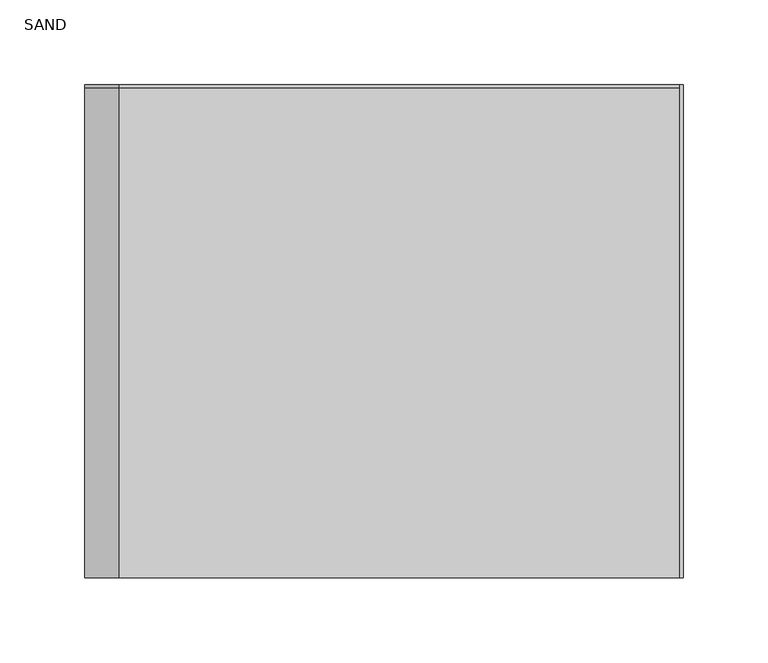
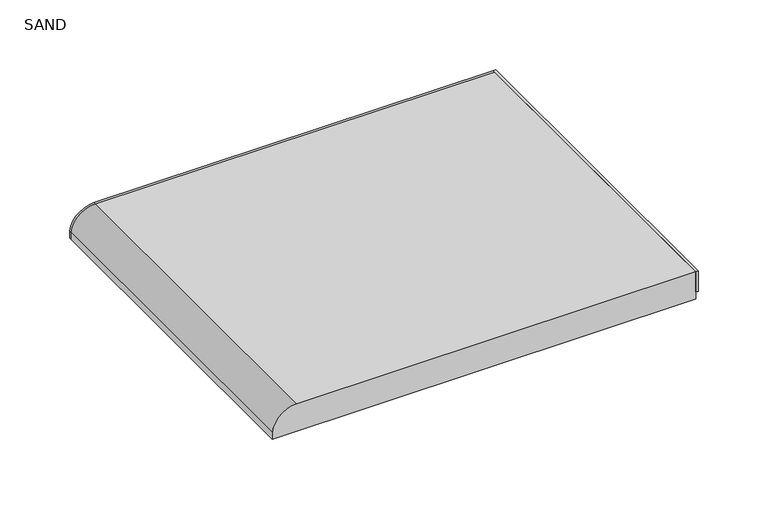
"""IFC4 building model written with IfcOpenShell, lengths in millimetres: proxy geometry, BORDA MONOLITH STEP SAND 35X60 EXT BOLD : SAND."""

import ifcopenshell
import ifcopenshell.guid

model = None  # the IFC model being written
_history = None  # IfcOwnerHistory: only IFC2X3 demands one
_inside = {}  # id of a spatial element -> (the spatial element, [elements in it])
_under = {}  # id of a project, library or spatial element -> (it, [spatial elements below it])
_declared = {}  # id of a project -> (the project, [libraries it declares])
_typed = {}  # id of a type object -> (the type object, [elements of that type])
_made_of = {}  # id of a material, layer set ... -> (it, [elements and type objects made of it])


def new_model(schema):
    """Start an empty IFC model of exactly this schema.

    Asked for "IFC4X3", IfcOpenShell would pick the latest addendum, in which some entities
    have other attributes; the version numbers below select the first issue.
    IFC2X3 requires an IfcOwnerHistory on every rooted entity: one is made here for all.
    """
    global model, _history
    if schema == "IFC4X3":
        model = ifcopenshell.file(schema_version=(4, 3, 0, 0))
    else:
        model = ifcopenshell.file(schema=schema)
    _inside.clear()
    _under.clear()
    _declared.clear()
    _typed.clear()
    _made_of.clear()
    _history = None
    if model.schema == "IFC2X3":
        org = make("IfcOrganization", Name="unknown")
        user = make(
            "IfcPersonAndOrganization",
            ThePerson=make("IfcPerson", FamilyName="unknown"),
            TheOrganization=org,
        )
        app = make(
            "IfcApplication",
            ApplicationDeveloper=org,
            Version="unknown",
            ApplicationFullName="unknown",
            ApplicationIdentifier="unknown",
        )
        _history = make(
            "IfcOwnerHistory",
            OwningUser=user,
            OwningApplication=app,
            ChangeAction="ADDED",
            CreationDate=0,
        )
    return model


def make(cls, **values):
    """One entity of the class cls with the attributes given. An attribute that is None is left unset."""
    return model.create_entity(
        cls, **{name: value for name, value in values.items() if value is not None}
    )


def rooted(cls, **values):
    """An entity with a GlobalId (a new one), such as an element, a storey or a relation."""
    return make(cls, GlobalId=ifcopenshell.guid.new(), OwnerHistory=_history, **values)


def si_unit(unit_type, name, prefix=None):
    """IfcSIUnit, for example si_unit("LENGTHUNIT", "METRE", prefix="MILLI")."""
    return make("IfcSIUnit", UnitType=unit_type, Prefix=prefix, Name=name)


def assignment(units):
    """IfcUnitAssignment: the units of a project."""
    return None if units is None else make("IfcUnitAssignment", Units=units)


def point(xyz):
    """IfcCartesianPoint."""
    return None if xyz is None else make("IfcCartesianPoint", Coordinates=xyz)


def direction(xyz):
    """IfcDirection."""
    return None if xyz is None else make("IfcDirection", DirectionRatios=xyz)


def frame(location, z_axis=None, x_axis=None):
    """IfcAxis2Placement3D, a coordinate frame: its origin and axes. An axis left out is left unset."""
    return make(
        "IfcAxis2Placement3D",
        Location=point(location),
        Axis=direction(z_axis),
        RefDirection=direction(x_axis),
    )


def frame_2d(location, x_axis=None):
    """IfcAxis2Placement2D, a coordinate frame in the plane: its origin and x axis."""
    return make(
        "IfcAxis2Placement2D", Location=point(location), RefDirection=direction(x_axis)
    )


def origin():
    """The frame at (0, 0, 0) with its axes left unset."""
    return frame((0.0, 0.0, 0.0))


def place(relative_to, where):
    """IfcLocalPlacement: puts the frame where relative to a parent placement (None: the world)."""
    return make(
        "IfcLocalPlacement", PlacementRelTo=relative_to, RelativePlacement=where
    )


def context(
    kind, dimensions, precision=None, world=None, true_north=None, identifier=None
):
    """IfcGeometricRepresentationContext, for example the 3D "Model" context."""
    return make(
        "IfcGeometricRepresentationContext",
        ContextIdentifier=identifier,
        ContextType=kind,
        CoordinateSpaceDimension=dimensions,
        Precision=precision,
        WorldCoordinateSystem=world,
        TrueNorth=true_north,
    )


def project(units=None, contexts=None):
    """IfcProject with its units and contexts."""
    return rooted(
        "IfcProject",
        Name="project",
        RepresentationContexts=contexts,
        UnitsInContext=assignment(units),
    )


def spatial(cls, under=None, at=None, **own):
    """A site, building, storey or space (cls), placed at a placement, below another one or the project."""
    s = rooted(cls, ObjectPlacement=at, **own)
    if under is not None:
        _under.setdefault(under.id(), (under, []))[1].append(s)
    return s


def polyline(points):
    """IfcPolyline through the points."""
    return make("IfcPolyline", Points=[point(p) for p in points])


def circle_curve(where, radius):
    """IfcCircle in the frame where."""
    return make("IfcCircle", Position=where, Radius=radius)


def trimmed(basis, trim1, trim2, sense, master):
    """IfcTrimmedCurve: the piece of a basis curve between two trims."""
    return make(
        "IfcTrimmedCurve",
        BasisCurve=basis,
        Trim1=trim1,
        Trim2=trim2,
        SenseAgreement=sense,
        MasterRepresentation=master,
    )


def segment(curve, same_sense, transition):
    """IfcCompositeCurveSegment."""
    return make(
        "IfcCompositeCurveSegment",
        Transition=transition,
        SameSense=same_sense,
        ParentCurve=curve,
    )


def composite_curve(segments, self_intersect=None):
    """IfcCompositeCurve: segments joined end to end."""
    return make("IfcCompositeCurve", Segments=segments, SelfIntersect=self_intersect)


def outline(outer, holes=None, kind="AREA"):
    """IfcArbitraryClosedProfileDef: a profile drawn as a closed curve; with holes, ...WithVoids."""
    if holes is None:
        return make("IfcArbitraryClosedProfileDef", ProfileType=kind, OuterCurve=outer)
    return make(
        "IfcArbitraryProfileDefWithVoids",
        ProfileType=kind,
        OuterCurve=outer,
        InnerCurves=holes,
    )


def extrude(swept, where, along, depth):
    """IfcExtrudedAreaSolid: the profile swept, set in the frame where, extruded along a direction by depth."""
    return make(
        "IfcExtrudedAreaSolid",
        SweptArea=swept,
        Position=where,
        ExtrudedDirection=direction(along),
        Depth=depth,
    )


def shape(context_of_items, identifier, shape_type, items):
    """IfcShapeRepresentation: the items that make up one representation, for example the "Body"."""
    return make(
        "IfcShapeRepresentation",
        ContextOfItems=context_of_items,
        RepresentationIdentifier=identifier,
        RepresentationType=shape_type,
        Items=items,
    )


def source(mapping_origin, context_of_items, identifier, shape_type, items):
    """IfcRepresentationMap: a shape defined once, which mapped items show again and again."""
    return make(
        "IfcRepresentationMap",
        MappingOrigin=mapping_origin,
        MappedRepresentation=shape(context_of_items, identifier, shape_type, items),
    )


def transform(
    local_origin,
    x_axis=None,
    y_axis=None,
    z_axis=None,
    scale=None,
    scale2=None,
    scale3=None,
    uniform=True,
):
    """IfcCartesianTransformationOperator3D, or its non-uniform kind. x_axis, y_axis, z_axis: its Axis1, 2, 3."""
    if uniform:
        return make(
            "IfcCartesianTransformationOperator3D",
            Axis1=direction(x_axis),
            Axis2=direction(y_axis),
            LocalOrigin=point(local_origin),
            Scale=scale,
            Axis3=direction(z_axis),
        )
    return make(
        "IfcCartesianTransformationOperator3DnonUniform",
        Axis1=direction(x_axis),
        Axis2=direction(y_axis),
        LocalOrigin=point(local_origin),
        Scale=scale,
        Axis3=direction(z_axis),
        Scale2=scale2,
        Scale3=scale3,
    )


def mapped(mapping_source, mapping_target):
    """IfcMappedItem: shows the shape of a source again, moved by a transform."""
    return make(
        "IfcMappedItem", MappingSource=mapping_source, MappingTarget=mapping_target
    )


def made_of(thing, what):
    """Note that an element or type object is made of a material, layer set ...; save() writes the relation."""
    if what is not None:
        _made_of.setdefault(what.id(), (what, []))[1].append(thing)
    return thing


def element(
    cls,
    number,
    at=None,
    inside=None,
    cuts=None,
    type_object=None,
    material=None,
    context=None,
    identifier="Body",
    shape_type=None,
    held_by="IfcProductDefinitionShape",
    body=None,
    shapes=None,
    **own,
):
    """One element of the class cls, such as IfcWall. Its Tag is "e" and its number.

    at: its placement. inside: the storey or other place that contains it. cuts: it is an
    opening in that element (IfcRelVoidsElement). A single representation is given by context,
    identifier, shape_type and body (its items); several are given by shapes. held_by: the class
    of the entity that holds the representations. save() writes the other relations.
    """
    e = rooted(cls, Tag="e%d" % number, ObjectPlacement=at, **own)
    if body is not None:
        shapes = [shape(context, identifier, shape_type, body)]
    if shapes is not None:
        e.Representation = make(held_by, Representations=shapes)
    if inside is not None:
        _inside.setdefault(inside.id(), (inside, []))[1].append(e)
    if cuts is not None:
        rooted(
            "IfcRelVoidsElement", RelatingBuildingElement=cuts, RelatedOpeningElement=e
        )
    if type_object is not None:
        _typed.setdefault(type_object.id(), (type_object, []))[1].append(e)
    return made_of(e, material)


def aggregate(whole, parts):
    """IfcRelAggregates: a whole, such as a stair, and the parts it consists of."""
    return rooted("IfcRelAggregates", RelatingObject=whole, RelatedObjects=parts)


def save(model, path):
    """Write the relations noted so far, then the file.

    IfcRelAggregates (storeys below a building ...), IfcRelContainedInSpatialStructure (elements
    in a storey), IfcRelDefinesByType, IfcRelAssociatesMaterial and IfcRelDeclares: one each for
    every whole, place, type object, material and project.
    """
    for whole, parts in _under.values():
        aggregate(whole, parts)
    for where, things in _inside.values():
        rooted(
            "IfcRelContainedInSpatialStructure",
            RelatedElements=things,
            RelatingStructure=where,
        )
    for kind, things in _typed.values():
        rooted("IfcRelDefinesByType", RelatedObjects=things, RelatingType=kind)
    for what, things in _made_of.values():
        rooted("IfcRelAssociatesMaterial", RelatedObjects=things, RelatingMaterial=what)
    for by, libraries in _declared.values():
        rooted("IfcRelDeclares", RelatingContext=by, RelatedDefinitions=libraries)
    model.write(path)


def sand_00d39136(model_context):
    return source(origin(), model_context, "Body", "SweptSolid", [
        extrude(outline(polyline([(108.0017831, 302.0), (110.0017831, 302.0), (110.0017831, 12.0), (108.0017831, 12.0), (108.0017831, 302.0)])), frame((0.0, 0.0, -18.0000002), z_axis=(0.0, 0.0, 1.0), x_axis=(1.0, 0.0, 0.0)), (0.0, 0.0, 1.0), 18.0000002),
        extrude(outline(composite_curve([segment(polyline([(-24.0002568, 108.0017831), (0.0, 108.0017831), (0.0, -222.108794)]), True, "CONTINUOUS"), segment(trimmed(circle_curve(frame_2d((-20.2271524, -221.8946941)), 20.2282854), [point((0.0, -222.108794))], [point((-17.9840003, -241.9982212))], False, "CARTESIAN"), True, "CONTINUOUS"), segment(polyline([(-17.9840003, -241.9982212), (-24.0002568, -241.9982212), (-24.0002568, 108.0017831)]), True, "CONTINUOUS")], self_intersect=False)), frame((0.0, 12.0, 0.0), z_axis=(0.0, 1.0, 0.0), x_axis=(0.0, 0.0, 1.0)), (0.0, 0.0, 1.0), 288.0),
        extrude(outline(composite_curve([segment(polyline([(-24.0002568, 108.0017831), (0.0, 108.0017831), (0.0, -222.108794)]), True, "CONTINUOUS"), segment(trimmed(circle_curve(frame_2d((-20.2271524, -221.8946941)), 20.2282854), [point((0.0, -222.108794))], [point((-17.9840003, -241.9982212))], False, "CARTESIAN"), True, "CONTINUOUS"), segment(polyline([(-17.9840003, -241.9982212), (-24.0002568, -241.9982212), (-24.0002568, 108.0017831)]), True, "CONTINUOUS")], self_intersect=False)), frame((0.0, 300.0, 0.0), z_axis=(0.0, 1.0, 0.0), x_axis=(0.0, 0.0, 1.0)), (0.0, 0.0, 1.0), 2.0),
    ])


if __name__ == "__main__":
    model = new_model("IFC4")
    model_context = context("Model", 3, world=origin())
    ifc_project = project(units=[si_unit("LENGTHUNIT", "METRE", prefix="MILLI")], contexts=[model_context])
    site = spatial("IfcSite", under=ifc_project)
    building = spatial("IfcBuilding", under=site)
    placement = place(None, origin())
    sand_shape = sand_00d39136(model_context)
    element("IfcBuildingElementProxy", 1, Name="BORDA MONOLITH STEP SAND 35X60 EXT BOLD : SAND", ObjectType="BORDA MONOLITH STEP SAND 35X60 EXT BOLD : SAND", at=placement, inside=building, context=model_context, shape_type="MappedRepresentation", body=[
        mapped(sand_shape, transform((0.0, 0.0, 0.0), x_axis=(1.0, 0.0, 0.0), y_axis=(0.0, 1.0, 0.0), z_axis=(0.0, 0.0, 1.0))),
    ])
    save(model, "model.ifc")
